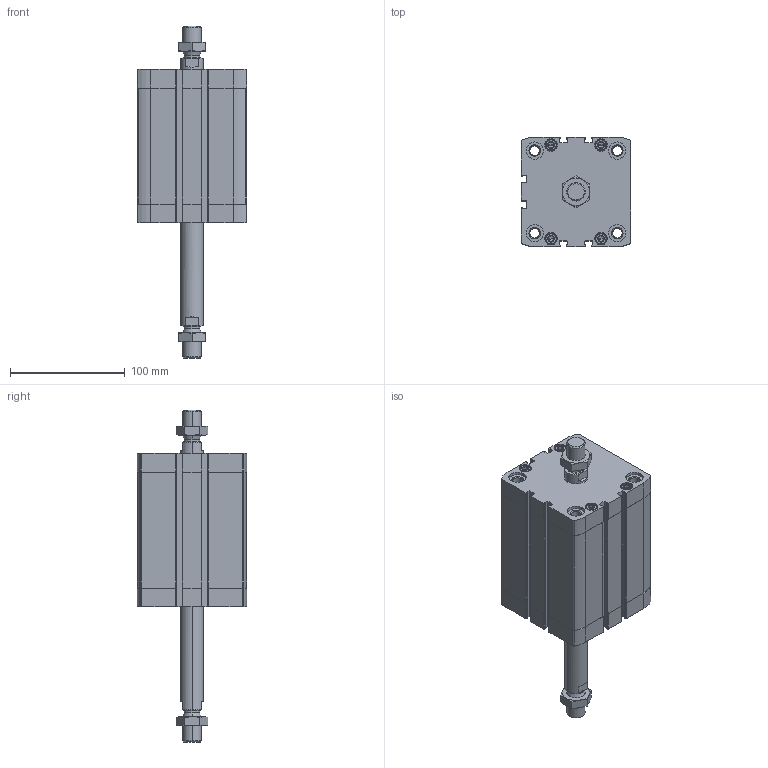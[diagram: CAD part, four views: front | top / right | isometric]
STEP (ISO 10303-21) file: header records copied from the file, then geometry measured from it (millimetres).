
FILE_DESCRIPTION (( 'STEP AP203' ), '1' );
FILE_NAME ('CCN80-80-P.STEP', '2020-06-22T19:07:58', ( '' ), ( '' ), 'SwSTEP 2.0', 'SolidWorks 2019', '' );
FILE_SCHEMA (( 'CONFIG_CONTROL_DESIGN' ));
Length unit declared in the file: millimetre
Products named in the file (1): CCN80-80-P
Bounding box: 95.5 x 95.5 x 289.2 mm (x, y, z)
Volume: 813176.5 mm3; surface area: 166285.1 mm2
Topology: 4 solids, 4 shells, 544 faces, 1352 edges, 848 vertices
Faces by surface type: plane 248, cylinder 196, cone 92, torus 8
Entity records: 17807 total; most frequent: CARTESIAN_POINT 4577, DIRECTION 2866, ORIENTED_EDGE 2672, EDGE_CURVE 1336, AXIS2_PLACEMENT_3D 1077, VERTEX_POINT 848, VECTOR 712, LINE 712
